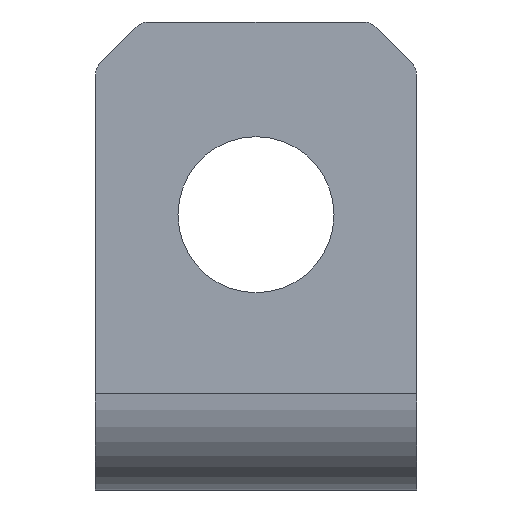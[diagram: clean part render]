
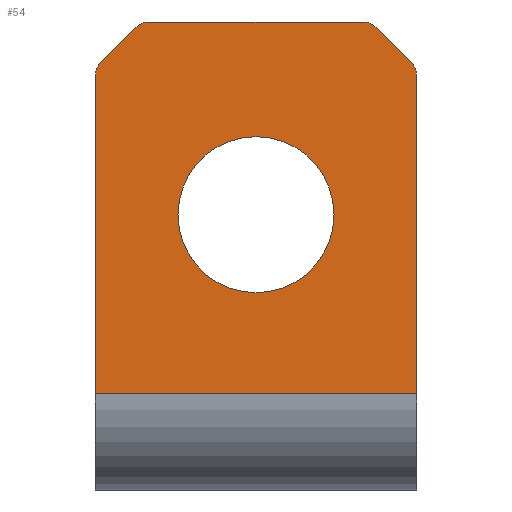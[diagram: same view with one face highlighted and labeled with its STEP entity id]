
A CAD part, left-side view. The second image highlights one B-rep face of the part: STEP entity #54.
In plain terms, the highlighted planar face has unit normal (-1, 0, 0).
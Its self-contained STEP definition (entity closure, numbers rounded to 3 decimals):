
#54=ADVANCED_FACE('',(#90,#92),#94,.T.);
#90=FACE_BOUND('',#91,.T.);
#91=EDGE_LOOP('',(#300,#301,#302,#303,#304,#305,#306,#307,#308,#309));
#92=FACE_BOUND('',#93,.T.);
#93=EDGE_LOOP('',(#310));
#94=PLANE('',#95);
#95=AXIS2_PLACEMENT_3D('',#96,#97,#98);
#96=CARTESIAN_POINT('',(0.,-17.5,10.5));
#97=DIRECTION('',(-1.,0.,0.));
#98=DIRECTION('',(0.,0.,1.));
#300=ORIENTED_EDGE('',*,*,#436,.F.);
#301=ORIENTED_EDGE('',*,*,#437,.T.);
#302=ORIENTED_EDGE('',*,*,#438,.F.);
#303=ORIENTED_EDGE('',*,*,#439,.F.);
#304=ORIENTED_EDGE('',*,*,#440,.F.);
#305=ORIENTED_EDGE('',*,*,#441,.F.);
#306=ORIENTED_EDGE('',*,*,#442,.F.);
#307=ORIENTED_EDGE('',*,*,#443,.T.);
#308=ORIENTED_EDGE('',*,*,#444,.F.);
#309=ORIENTED_EDGE('',*,*,#445,.F.);
#310=ORIENTED_EDGE('',*,*,#446,.T.);
#436=EDGE_CURVE('',#515,#516,#517,.F.);
#437=EDGE_CURVE('',#515,#518,#519,.T.);
#438=EDGE_CURVE('',#520,#518,#521,.F.);
#439=EDGE_CURVE('',#522,#520,#523,.F.);
#440=EDGE_CURVE('',#524,#522,#525,.F.);
#441=EDGE_CURVE('',#526,#524,#527,.T.);
#442=EDGE_CURVE('',#528,#526,#529,.T.);
#443=EDGE_CURVE('',#528,#530,#531,.T.);
#444=EDGE_CURVE('',#532,#530,#533,.F.);
#445=EDGE_CURVE('',#516,#532,#534,.F.);
#446=EDGE_CURVE('',#535,#535,#536,.T.);
#515=VERTEX_POINT('',#654);
#516=VERTEX_POINT('',#655);
#517=CIRCLE('',#656,2.);
#518=VERTEX_POINT('',#660);
#519=LINE('',#661,#662);
#520=VERTEX_POINT('',#664);
#521=CIRCLE('',#665,2.);
#522=VERTEX_POINT('',#669);
#523=LINE('',#670,#671);
#524=VERTEX_POINT('',#673);
#525=CIRCLE('',#674,2.);
#526=VERTEX_POINT('',#678);
#527=LINE('',#679,#680);
#528=VERTEX_POINT('',#682);
#529=LINE('',#683,#684);
#530=VERTEX_POINT('',#686);
#531=LINE('',#687,#688);
#532=VERTEX_POINT('',#690);
#533=CIRCLE('',#691,2.);
#534=LINE('',#695,#696);
#535=VERTEX_POINT('',#698);
#536=CIRCLE('',#699,8.5);
#654=CARTESIAN_POINT('',(0.,-11.672,51.));
#655=CARTESIAN_POINT('',(0.,-13.086,50.414));
#656=AXIS2_PLACEMENT_3D('',#657,#658,#659);
#657=CARTESIAN_POINT('',(0.,-11.672,49.));
#658=DIRECTION('',(-1.,0.,0.));
#659=DIRECTION('',(0.,-0.707,0.707));
#660=CARTESIAN_POINT('',(0.,11.672,51.));
#661=CARTESIAN_POINT('',(0.,-11.672,51.));
#662=VECTOR('',#663,1.);
#663=DIRECTION('',(0.,1.,0.));
#664=CARTESIAN_POINT('',(0.,13.086,50.414));
#665=AXIS2_PLACEMENT_3D('',#666,#667,#668);
#666=CARTESIAN_POINT('',(0.,11.672,49.));
#667=DIRECTION('',(-1.,0.,0.));
#668=DIRECTION('',(0.,0.,1.));
#669=CARTESIAN_POINT('',(0.,16.914,46.586));
#670=CARTESIAN_POINT('',(0.,13.086,50.414));
#671=VECTOR('',#672,1.);
#672=DIRECTION('',(0.,0.707,-0.707));
#673=CARTESIAN_POINT('',(0.,17.5,45.172));
#674=AXIS2_PLACEMENT_3D('',#675,#676,#677);
#675=CARTESIAN_POINT('',(0.,15.5,45.172));
#676=DIRECTION('',(-1.,0.,0.));
#677=DIRECTION('',(0.,0.707,0.707));
#678=CARTESIAN_POINT('',(0.,17.5,10.5));
#679=CARTESIAN_POINT('',(0.,17.5,10.5));
#680=VECTOR('',#681,1.);
#681=DIRECTION('',(0.,0.,1.));
#682=CARTESIAN_POINT('',(0.,-17.5,10.5));
#683=CARTESIAN_POINT('',(0.,-17.5,10.5));
#684=VECTOR('',#685,1.);
#685=DIRECTION('',(0.,1.,0.));
#686=CARTESIAN_POINT('',(0.,-17.5,45.172));
#687=CARTESIAN_POINT('',(0.,-17.5,10.5));
#688=VECTOR('',#689,1.);
#689=DIRECTION('',(0.,0.,1.));
#690=CARTESIAN_POINT('',(0.,-16.914,46.586));
#691=AXIS2_PLACEMENT_3D('',#692,#693,#694);
#692=CARTESIAN_POINT('',(0.,-15.5,45.172));
#693=DIRECTION('',(-1.,0.,0.));
#694=DIRECTION('',(0.,-1.,0.));
#695=CARTESIAN_POINT('',(0.,-16.914,46.586));
#696=VECTOR('',#697,1.);
#697=DIRECTION('',(0.,0.707,0.707));
#698=CARTESIAN_POINT('',(0.,8.5,30.));
#699=AXIS2_PLACEMENT_3D('',#700,#701,#702);
#700=CARTESIAN_POINT('',(0.,0.,30.));
#701=DIRECTION('',(1.,0.,0.));
#702=DIRECTION('',(0.,1.,0.));
